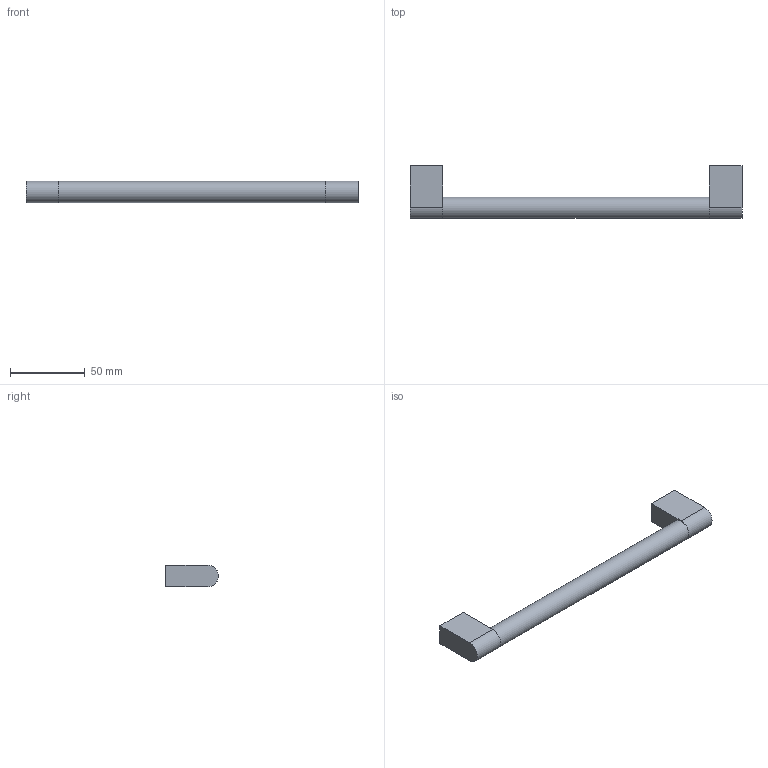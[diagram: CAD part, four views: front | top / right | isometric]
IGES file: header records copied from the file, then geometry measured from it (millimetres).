
Start section: Data from Parasolid IGES Translator 20.0.26, Copyright(c) 2006 Siemens P LM Software. All Rights Reserved.
Global section: file name: 9332319.igs; native system: By Siemens PLM Incorporated; preprocessor: XPlus GENERIC/IGES 20.0.26; author: Noname; organization: Noname; date: 20230829.122621; units: millimetre
Bounding box: 222 x 35.36 x 14.64 mm (x, y, z)
Surface area: 14310.5 mm2 (no closed solid volume)
Topology: 0 solids, 0 shells, 17 faces, 66 edges, 62 vertices
Faces by surface type: extrusion 12, revolution 5
